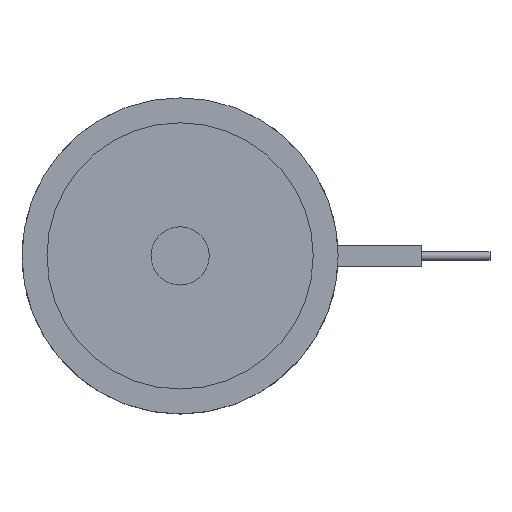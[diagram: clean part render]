
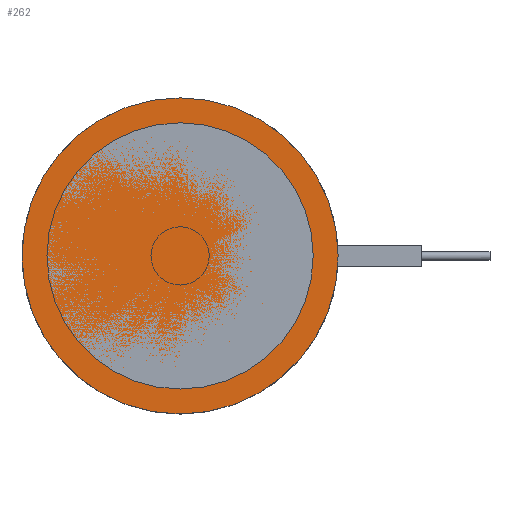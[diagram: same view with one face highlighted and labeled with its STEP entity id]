
A CAD part, top view. The second image highlights one B-rep face of the part: STEP entity #262.
In plain terms, the highlighted planar face has unit normal (0, 0, 1).
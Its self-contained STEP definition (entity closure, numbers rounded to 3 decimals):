
#262=ADVANCED_FACE('',(#345),#299,.F.);
#299=PLANE('',#1158);
#345=FACE_OUTER_BOUND('',#439,.T.);
#439=EDGE_LOOP('',(#736));
#511=CIRCLE('',#1157,19.);
#736=ORIENTED_EDGE('',*,*,#951,.F.);
#834=VERTEX_POINT('',#1942);
#951=EDGE_CURVE('',#834,#834,#511,.T.);
#1157=AXIS2_PLACEMENT_3D('',#1941,#1446,#1447);
#1158=AXIS2_PLACEMENT_3D('',#1943,#1448,#1449);
#1446=DIRECTION('',(0.,0.,-1.));
#1447=DIRECTION('',(-1.,0.,0.));
#1448=DIRECTION('',(0.,0.,-1.));
#1449=DIRECTION('',(-1.,0.,0.));
#1941=CARTESIAN_POINT('',(0.,0.,0.));
#1942=CARTESIAN_POINT('',(-19.,0.,0.));
#1943=CARTESIAN_POINT('',(0.,0.,0.));
